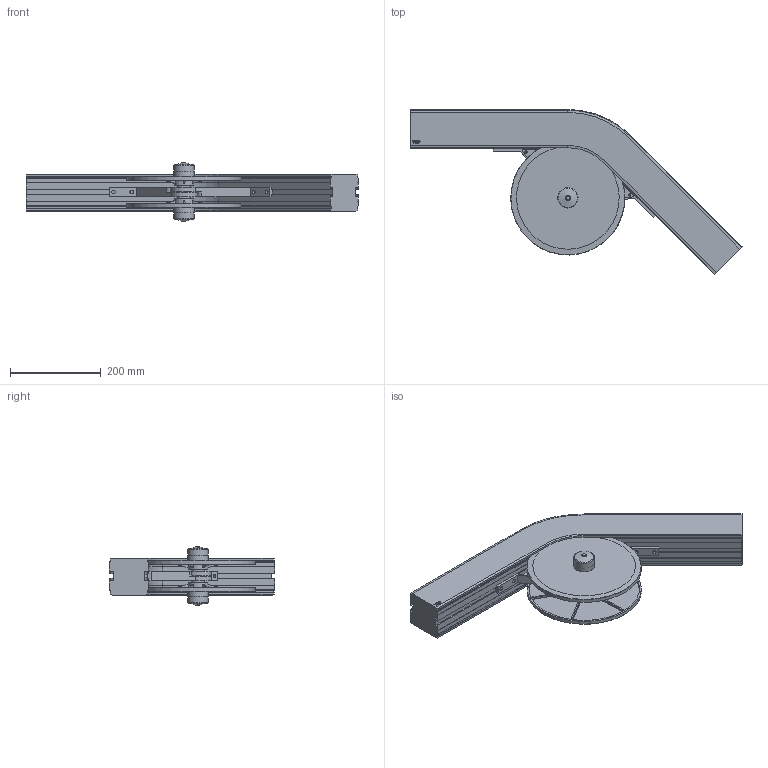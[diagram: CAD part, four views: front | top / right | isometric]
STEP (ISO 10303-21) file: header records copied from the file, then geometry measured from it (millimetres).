
FILE_DESCRIPTION((''),'2;1');
FILE_NAME('C:\Vault Klient\Projekt\Koncept konstruktion\Serie 830 Hjulkurva\830-5000.stp','2009-12-01T15:20:46',('Mathias'),(''),'Autodesk Inventor 2010','Autodesk Inventor 2010','');
FILE_SCHEMA(('CONFIG_CONTROL_DESIGN'));
Length unit declared in the file: millimetre
Products named in the file (5): 830-5000; 830-1000_04; 830-5026; 830-5027; FCWA-0413-025
Assembly tree (7 placements, depth 2):
  830-5000
    830-1000_04
    830-5026  x2
    830-5027  x2
    FCWA-0413-025  x2
Bounding box: 731.96 x 364 x 131.94 mm (x, y, z)
Volume: 6017363.3 mm3; surface area: 674807.9 mm2
Topology: 7 solids, 7 shells, 513 faces, 1344 edges, 868 vertices
Faces by surface type: plane 255, cylinder 120, bspline 88, cone 36, torus 10, sphere 4
Full cylindrical faces by diameter (mm): 6 x16, 29.5 x2, 30 x2, 34.5 x4, 41.3 x2, 45 x2, 50.3 x2, 252 x2
Entity records: 11810 total; most frequent: CARTESIAN_POINT 3615, ORIENTED_EDGE 1708, DIRECTION 1523, EDGE_CURVE 854, VERTEX_POINT 567, AXIS2_PLACEMENT_3D 511, VECTOR 501, LINE 501
